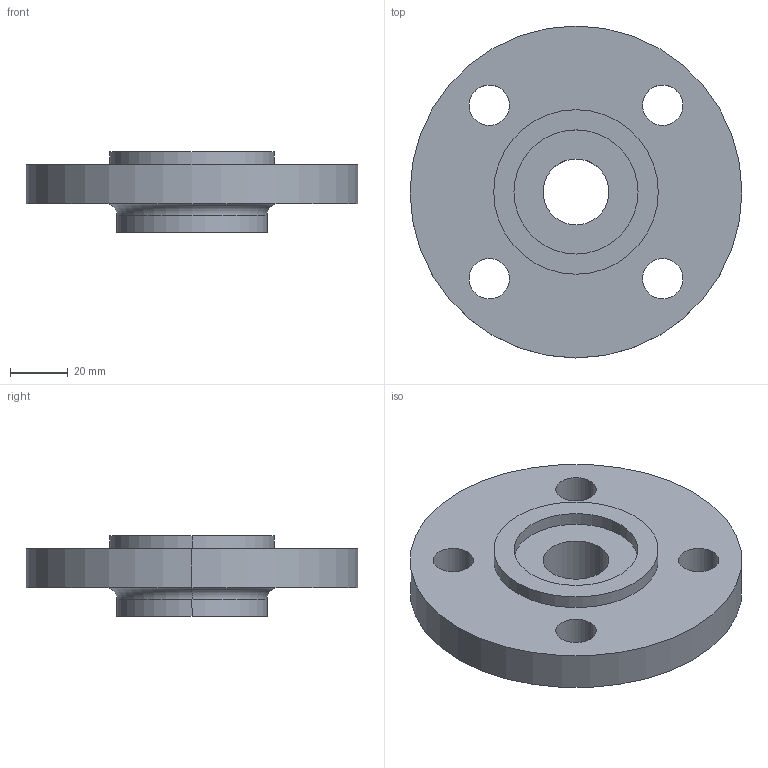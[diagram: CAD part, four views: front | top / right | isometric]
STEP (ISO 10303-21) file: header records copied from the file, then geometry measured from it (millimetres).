
FILE_DESCRIPTION (( 'STEP AP214' ), '1' );
FILE_NAME ('PN40 DN25 Type 13 - Type C Face.STEP', '2018-12-29T20:25:39', ( '' ), ( '' ), 'SwSTEP 2.0', 'SolidWorks 2019', '' );
FILE_SCHEMA (( 'AUTOMOTIVE_DESIGN' ));
Length unit declared in the file: millimetre
Products named in the file (1): PN40 DN25 Type 13 - Type C Face
Bounding box: 115 x 115 x 28 mm (x, y, z)
Volume: 149051.7 mm3; surface area: 30435.4 mm2
Topology: 1 solids, 1 shells, 25 faces, 58 edges, 38 vertices
Faces by surface type: cylinder 18, plane 5, torus 2
Entity records: 790 total; most frequent: DIRECTION 150, CARTESIAN_POINT 122, ORIENTED_EDGE 116, AXIS2_PLACEMENT_3D 66, EDGE_CURVE 58, CIRCLE 40, VERTEX_POINT 38, EDGE_LOOP 38
